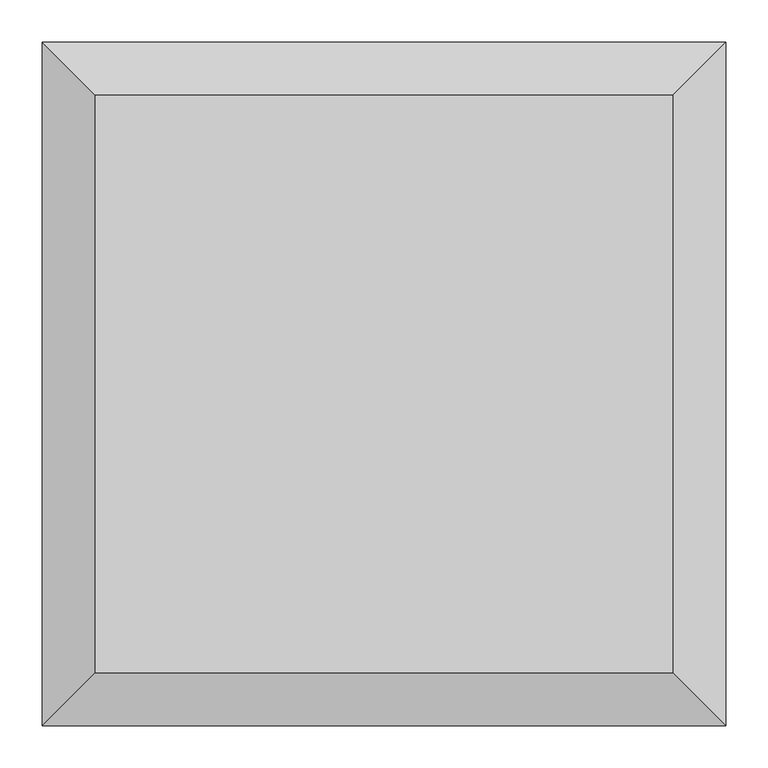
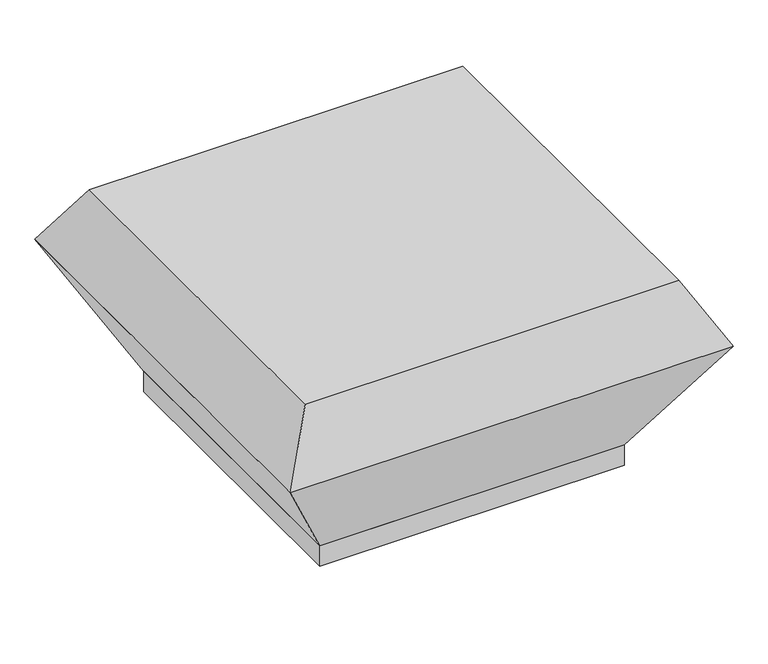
"""IFC4 building model written with IfcOpenShell, lengths in millimetres: proxy geometry."""

import ifcopenshell
import ifcopenshell.guid

model = None  # the IFC model being written
_history = None  # IfcOwnerHistory: only IFC2X3 demands one
_inside = {}  # id of a spatial element -> (the spatial element, [elements in it])
_under = {}  # id of a project, library or spatial element -> (it, [spatial elements below it])
_declared = {}  # id of a project -> (the project, [libraries it declares])
_typed = {}  # id of a type object -> (the type object, [elements of that type])
_made_of = {}  # id of a material, layer set ... -> (it, [elements and type objects made of it])


def new_model(schema):
    """Start an empty IFC model of exactly this schema.

    Asked for "IFC4X3", IfcOpenShell would pick the latest addendum, in which some entities
    have other attributes; the version numbers below select the first issue.
    IFC2X3 requires an IfcOwnerHistory on every rooted entity: one is made here for all.
    """
    global model, _history
    if schema == "IFC4X3":
        model = ifcopenshell.file(schema_version=(4, 3, 0, 0))
    else:
        model = ifcopenshell.file(schema=schema)
    _inside.clear()
    _under.clear()
    _declared.clear()
    _typed.clear()
    _made_of.clear()
    _history = None
    if model.schema == "IFC2X3":
        org = make("IfcOrganization", Name="unknown")
        user = make(
            "IfcPersonAndOrganization",
            ThePerson=make("IfcPerson", FamilyName="unknown"),
            TheOrganization=org,
        )
        app = make(
            "IfcApplication",
            ApplicationDeveloper=org,
            Version="unknown",
            ApplicationFullName="unknown",
            ApplicationIdentifier="unknown",
        )
        _history = make(
            "IfcOwnerHistory",
            OwningUser=user,
            OwningApplication=app,
            ChangeAction="ADDED",
            CreationDate=0,
        )
    return model


def make(cls, **values):
    """One entity of the class cls with the attributes given. An attribute that is None is left unset."""
    return model.create_entity(
        cls, **{name: value for name, value in values.items() if value is not None}
    )


def rooted(cls, **values):
    """An entity with a GlobalId (a new one), such as an element, a storey or a relation."""
    return make(cls, GlobalId=ifcopenshell.guid.new(), OwnerHistory=_history, **values)


def si_unit(unit_type, name, prefix=None):
    """IfcSIUnit, for example si_unit("LENGTHUNIT", "METRE", prefix="MILLI")."""
    return make("IfcSIUnit", UnitType=unit_type, Prefix=prefix, Name=name)


def assignment(units):
    """IfcUnitAssignment: the units of a project."""
    return None if units is None else make("IfcUnitAssignment", Units=units)


def point(xyz):
    """IfcCartesianPoint."""
    return None if xyz is None else make("IfcCartesianPoint", Coordinates=xyz)


def direction(xyz):
    """IfcDirection."""
    return None if xyz is None else make("IfcDirection", DirectionRatios=xyz)


def frame(location, z_axis=None, x_axis=None):
    """IfcAxis2Placement3D, a coordinate frame: its origin and axes. An axis left out is left unset."""
    return make(
        "IfcAxis2Placement3D",
        Location=point(location),
        Axis=direction(z_axis),
        RefDirection=direction(x_axis),
    )


def origin():
    """The frame at (0, 0, 0) with its axes left unset."""
    return frame((0.0, 0.0, 0.0))


def origin_with_axes():
    """The frame at (0, 0, 0) with the z axis (0, 0, 1) and the x axis (1, 0, 0) written out."""
    return frame((0.0, 0.0, 0.0), z_axis=(0.0, 0.0, 1.0), x_axis=(1.0, 0.0, 0.0))


def place(relative_to, where):
    """IfcLocalPlacement: puts the frame where relative to a parent placement (None: the world)."""
    return make(
        "IfcLocalPlacement", PlacementRelTo=relative_to, RelativePlacement=where
    )


def context(
    kind, dimensions, precision=None, world=None, true_north=None, identifier=None
):
    """IfcGeometricRepresentationContext, for example the 3D "Model" context."""
    return make(
        "IfcGeometricRepresentationContext",
        ContextIdentifier=identifier,
        ContextType=kind,
        CoordinateSpaceDimension=dimensions,
        Precision=precision,
        WorldCoordinateSystem=world,
        TrueNorth=true_north,
    )


def project(units=None, contexts=None):
    """IfcProject with its units and contexts."""
    return rooted(
        "IfcProject",
        Name="project",
        RepresentationContexts=contexts,
        UnitsInContext=assignment(units),
    )


def spatial(cls, under=None, at=None, **own):
    """A site, building, storey or space (cls), placed at a placement, below another one or the project."""
    s = rooted(cls, ObjectPlacement=at, **own)
    if under is not None:
        _under.setdefault(under.id(), (under, []))[1].append(s)
    return s


def polyline(points):
    """IfcPolyline through the points."""
    return make("IfcPolyline", Points=[point(p) for p in points])


def outline(outer, holes=None, kind="AREA"):
    """IfcArbitraryClosedProfileDef: a profile drawn as a closed curve; with holes, ...WithVoids."""
    if holes is None:
        return make("IfcArbitraryClosedProfileDef", ProfileType=kind, OuterCurve=outer)
    return make(
        "IfcArbitraryProfileDefWithVoids",
        ProfileType=kind,
        OuterCurve=outer,
        InnerCurves=holes,
    )


def extrude(swept, where, along, depth):
    """IfcExtrudedAreaSolid: the profile swept, set in the frame where, extruded along a direction by depth."""
    return make(
        "IfcExtrudedAreaSolid",
        SweptArea=swept,
        Position=where,
        ExtrudedDirection=direction(along),
        Depth=depth,
    )


def faces_of(points, faces, orient=None, outer=None):
    """IfcFace entities. A face is a list of loops; a loop is a list of indices into points, from 0.

    orient and outer hold one flag for each loop. By default every Orientation is true, the
    first loop of a face is its IfcFaceOuterBound and the others are IfcFaceBound.
    """
    made = []
    for i, loops in enumerate(faces):
        bounds = []
        for j, loop in enumerate(loops):
            is_outer = j == 0 if outer is None else outer[i][j]
            bounds.append(
                make(
                    "IfcFaceOuterBound" if is_outer else "IfcFaceBound",
                    Bound=make("IfcPolyLoop", Polygon=[points[k] for k in loop]),
                    Orientation=True if orient is None else orient[i][j],
                )
            )
        made.append(make("IfcFace", Bounds=bounds))
    return made


def faceted_brep(points, faces, orient=None, outer=None, voids=None):
    """IfcFacetedBrep: a solid bounded by flat faces; with voids (closed shells), ...WithVoids."""
    shared = [point(p) for p in points]
    hull = make("IfcClosedShell", CfsFaces=faces_of(shared, faces, orient, outer))
    if voids is None:
        return make("IfcFacetedBrep", Outer=hull)
    return make(
        "IfcFacetedBrepWithVoids",
        Outer=hull,
        Voids=[
            make(cls, CfsFaces=faces_of(shared, fs, o, b)) for cls, fs, o, b in voids
        ],
    )


def shape(context_of_items, identifier, shape_type, items):
    """IfcShapeRepresentation: the items that make up one representation, for example the "Body"."""
    return make(
        "IfcShapeRepresentation",
        ContextOfItems=context_of_items,
        RepresentationIdentifier=identifier,
        RepresentationType=shape_type,
        Items=items,
    )


def source(mapping_origin, context_of_items, identifier, shape_type, items):
    """IfcRepresentationMap: a shape defined once, which mapped items show again and again."""
    return make(
        "IfcRepresentationMap",
        MappingOrigin=mapping_origin,
        MappedRepresentation=shape(context_of_items, identifier, shape_type, items),
    )


def transform(
    local_origin,
    x_axis=None,
    y_axis=None,
    z_axis=None,
    scale=None,
    scale2=None,
    scale3=None,
    uniform=True,
):
    """IfcCartesianTransformationOperator3D, or its non-uniform kind. x_axis, y_axis, z_axis: its Axis1, 2, 3."""
    if uniform:
        return make(
            "IfcCartesianTransformationOperator3D",
            Axis1=direction(x_axis),
            Axis2=direction(y_axis),
            LocalOrigin=point(local_origin),
            Scale=scale,
            Axis3=direction(z_axis),
        )
    return make(
        "IfcCartesianTransformationOperator3DnonUniform",
        Axis1=direction(x_axis),
        Axis2=direction(y_axis),
        LocalOrigin=point(local_origin),
        Scale=scale,
        Axis3=direction(z_axis),
        Scale2=scale2,
        Scale3=scale3,
    )


def mapped(mapping_source, mapping_target):
    """IfcMappedItem: shows the shape of a source again, moved by a transform."""
    return make(
        "IfcMappedItem", MappingSource=mapping_source, MappingTarget=mapping_target
    )


def made_of(thing, what):
    """Note that an element or type object is made of a material, layer set ...; save() writes the relation."""
    if what is not None:
        _made_of.setdefault(what.id(), (what, []))[1].append(thing)
    return thing


def element(
    cls,
    number,
    at=None,
    inside=None,
    cuts=None,
    type_object=None,
    material=None,
    context=None,
    identifier="Body",
    shape_type=None,
    held_by="IfcProductDefinitionShape",
    body=None,
    shapes=None,
    **own,
):
    """One element of the class cls, such as IfcWall. Its Tag is "e" and its number.

    at: its placement. inside: the storey or other place that contains it. cuts: it is an
    opening in that element (IfcRelVoidsElement). A single representation is given by context,
    identifier, shape_type and body (its items); several are given by shapes. held_by: the class
    of the entity that holds the representations. save() writes the other relations.
    """
    e = rooted(cls, Tag="e%d" % number, ObjectPlacement=at, **own)
    if body is not None:
        shapes = [shape(context, identifier, shape_type, body)]
    if shapes is not None:
        e.Representation = make(held_by, Representations=shapes)
    if inside is not None:
        _inside.setdefault(inside.id(), (inside, []))[1].append(e)
    if cuts is not None:
        rooted(
            "IfcRelVoidsElement", RelatingBuildingElement=cuts, RelatedOpeningElement=e
        )
    if type_object is not None:
        _typed.setdefault(type_object.id(), (type_object, []))[1].append(e)
    return made_of(e, material)


def aggregate(whole, parts):
    """IfcRelAggregates: a whole, such as a stair, and the parts it consists of."""
    return rooted("IfcRelAggregates", RelatingObject=whole, RelatedObjects=parts)


def save(model, path):
    """Write the relations noted so far, then the file.

    IfcRelAggregates (storeys below a building ...), IfcRelContainedInSpatialStructure (elements
    in a storey), IfcRelDefinesByType, IfcRelAssociatesMaterial and IfcRelDeclares: one each for
    every whole, place, type object, material and project.
    """
    for whole, parts in _under.values():
        aggregate(whole, parts)
    for where, things in _inside.values():
        rooted(
            "IfcRelContainedInSpatialStructure",
            RelatedElements=things,
            RelatingStructure=where,
        )
    for kind, things in _typed.values():
        rooted("IfcRelDefinesByType", RelatedObjects=things, RelatingType=kind)
    for what, things in _made_of.values():
        rooted("IfcRelAssociatesMaterial", RelatedObjects=things, RelatingMaterial=what)
    for by, libraries in _declared.values():
        rooted("IfcRelDeclares", RelatingContext=by, RelatedDefinitions=libraries)
    model.write(path)


def mechanical_equipment_66dcccd3(model_context):
    return source(origin(), model_context, "Body", "SolidModel", [
        faceted_brep([(-407.0, -407.0, 264.0), (-407.0, 407.0, 264.0), (407.0, 407.0, 264.0), (407.0, -407.0, 264.0), (-343.5, -343.5, 376.0), (343.5, -343.5, 376.0), (343.5, 343.5, 376.0), (-343.5, 343.5, 376.0)], [[[0, 1, 2, 3]], [[4, 5, 6, 7]], [[5, 4, 0, 3]], [[6, 5, 3, 2]], [[7, 6, 2, 1]], [[4, 7, 1, 0]]]),
        faceted_brep([(407.0, 407.0, 264.0), (-407.0, 407.0, 264.0), (-407.0, -407.0, 264.0), (407.0, -407.0, 264.0), (280.0, 280.0, 40.0), (280.0, -280.0, 40.0), (-280.0, -280.0, 40.0), (-280.0, 280.0, 40.0)], [[[0, 1, 2, 3]], [[4, 5, 6, 7]], [[4, 7, 1, 0]], [[7, 6, 2, 1]], [[6, 5, 3, 2]], [[5, 4, 0, 3]]]),
        extrude(outline(polyline([(-280.0, -280.0), (-280.0, 280.0), (280.0, 280.0), (280.0, -280.0), (-280.0, -280.0)])), origin_with_axes(), (0.0, 0.0, 1.0), 40.0),
    ])


if __name__ == "__main__":
    model = new_model("IFC4")
    model_context = context("Model", 3, world=origin())
    ifc_project = project(units=[si_unit("LENGTHUNIT", "METRE", prefix="MILLI")], contexts=[model_context])
    site = spatial("IfcSite", under=ifc_project)
    building = spatial("IfcBuilding", under=site)
    placement = place(None, origin())
    mechanical_equipment_shape = mechanical_equipment_66dcccd3(model_context)
    element("IfcBuildingElementProxy", 1, Name="Mechanical Equipment", at=placement, inside=building, context=model_context, shape_type="MappedRepresentation", body=[
        mapped(mechanical_equipment_shape, transform((0.0, 0.0, 0.0), x_axis=(1.0, 0.0, 0.0), y_axis=(0.0, 1.0, 0.0), z_axis=(0.0, 0.0, 1.0))),
    ])
    save(model, "model.ifc")
